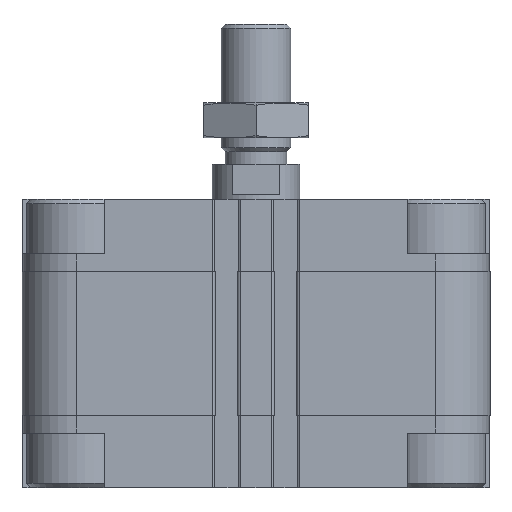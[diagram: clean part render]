
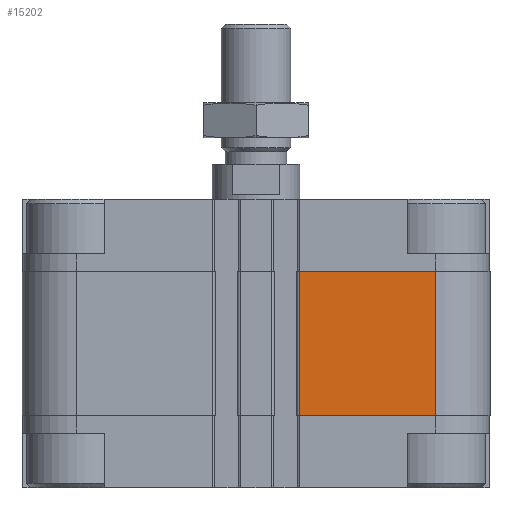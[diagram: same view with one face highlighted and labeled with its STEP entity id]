
A CAD part, front view. The second image highlights one B-rep face of the part: STEP entity #15202.
In plain terms, the highlighted planar face has unit normal (0, -1, 0).
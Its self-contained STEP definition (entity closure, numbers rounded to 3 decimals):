
#1387 = LINE ( 'NONE', #17716, #9399 ) ;
#2130 = PLANE ( 'NONE',  #9446 ) ;
#2377 = CARTESIAN_POINT ( 'NONE',  ( 9.95, -53.5, -16.5 ) ) ;
#3019 = DIRECTION ( 'NONE',  ( 0., 0., 1. ) ) ;
#3161 = VECTOR ( 'NONE', #13169, 1000. ) ;
#3208 = VERTEX_POINT ( 'NONE', #9315 ) ;
#3435 = FACE_OUTER_BOUND ( 'NONE', #16806, .T. ) ;
#4713 = CARTESIAN_POINT ( 'NONE',  ( 41., -53.5, -16.5 ) ) ;
#5760 = DIRECTION ( 'NONE',  ( 1., 0., 0. ) ) ;
#5918 = VECTOR ( 'NONE', #19972, 1000. ) ;
#6186 = EDGE_CURVE ( 'NONE', #3208, #21446, #1387, .T. ) ;
#6274 = CARTESIAN_POINT ( 'NONE',  ( 41., -53.5, -49.5 ) ) ;
#6785 = CARTESIAN_POINT ( 'NONE',  ( 41., -53.5, -49.5 ) ) ;
#8274 = ORIENTED_EDGE ( 'NONE', *, *, #13646, .T. ) ;
#8805 = DIRECTION ( 'NONE',  ( 0., -1., 0. ) ) ;
#8934 = EDGE_CURVE ( 'NONE', #3208, #12957, #16483, .T. ) ;
#9261 = LINE ( 'NONE', #2377, #16333 ) ;
#9315 = CARTESIAN_POINT ( 'NONE',  ( 9.95, -53.5, -49.5 ) ) ;
#9399 = VECTOR ( 'NONE', #3019, 1000. ) ;
#9446 = AXIS2_PLACEMENT_3D ( 'NONE', #13524, #8805, #16830 ) ;
#10100 = ORIENTED_EDGE ( 'NONE', *, *, #18887, .F. ) ;
#10560 = ORIENTED_EDGE ( 'NONE', *, *, #8934, .T. ) ;
#12957 = VERTEX_POINT ( 'NONE', #6274 ) ;
#13169 = DIRECTION ( 'NONE',  ( 1., 0., 0. ) ) ;
#13524 = CARTESIAN_POINT ( 'NONE',  ( 9.95, -53.5, -49.5 ) ) ;
#13646 = EDGE_CURVE ( 'NONE', #12957, #19988, #18321, .T. ) ;
#14827 = CARTESIAN_POINT ( 'NONE',  ( 9.95, -53.5, -49.5 ) ) ;
#15202 = ADVANCED_FACE ( 'NONE', ( #3435 ), #2130, .T. ) ;
#15796 = CARTESIAN_POINT ( 'NONE',  ( 9.95, -53.5, -16.5 ) ) ;
#16333 = VECTOR ( 'NONE', #5760, 1000. ) ;
#16483 = LINE ( 'NONE', #14827, #3161 ) ;
#16562 = ORIENTED_EDGE ( 'NONE', *, *, #6186, .F. ) ;
#16806 = EDGE_LOOP ( 'NONE', ( #10100, #16562, #10560, #8274 ) ) ;
#16830 = DIRECTION ( 'NONE',  ( -1., 0., 0. ) ) ;
#17716 = CARTESIAN_POINT ( 'NONE',  ( 9.95, -53.5, -49.5 ) ) ;
#18321 = LINE ( 'NONE', #6785, #5918 ) ;
#18887 = EDGE_CURVE ( 'NONE', #21446, #19988, #9261, .T. ) ;
#19972 = DIRECTION ( 'NONE',  ( 0., 0., 1. ) ) ;
#19988 = VERTEX_POINT ( 'NONE', #4713 ) ;
#21446 = VERTEX_POINT ( 'NONE', #15796 ) ;
